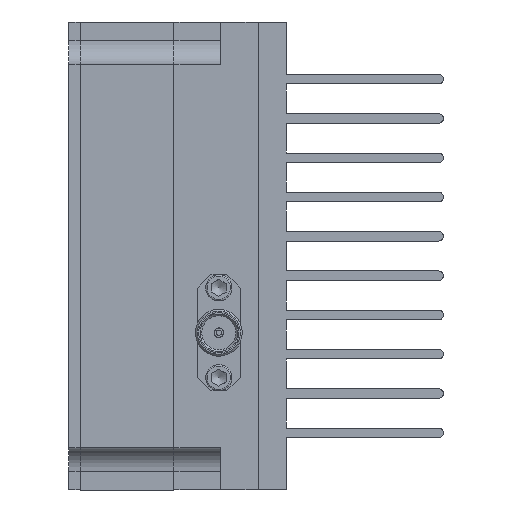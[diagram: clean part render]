
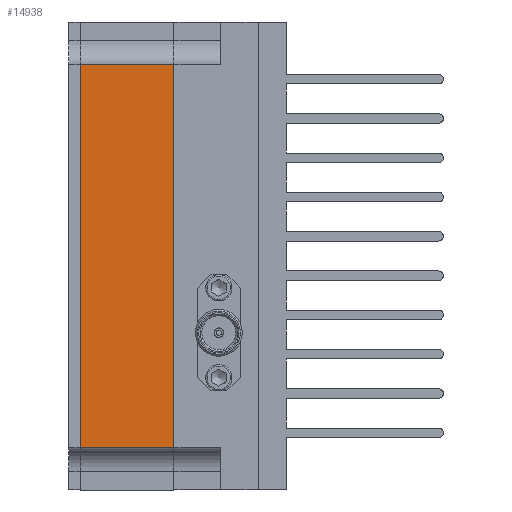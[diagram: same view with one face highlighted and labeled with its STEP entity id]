
A CAD part, left-side view. The second image highlights one B-rep face of the part: STEP entity #14938.
In plain terms, the highlighted planar face has unit normal (-1, 0, 0) as drawn and (0, 0, 1) by its records, which use the part's own axes.
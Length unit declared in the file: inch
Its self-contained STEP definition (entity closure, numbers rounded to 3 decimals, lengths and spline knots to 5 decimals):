
#10150=CARTESIAN_POINT('',(-1.025,0.0,1.65));
#10151=VERTEX_POINT('',#10150);
#10268=CARTESIAN_POINT('',(1.025,0.0,1.65));
#10269=VERTEX_POINT('',#10268);
#10276=CARTESIAN_POINT('',(-1.025,0.0,1.65));
#10277=DIRECTION('',(1.0,0.0,0.0));
#10278=VECTOR('',#10277,2.05);
#10279=LINE('',#10276,#10278);
#10280=EDGE_CURVE('',#10151,#10269,#10279,.T.);
#14233=CARTESIAN_POINT('',(-1.025,0.5,1.65));
#14234=VERTEX_POINT('',#14233);
#14241=CARTESIAN_POINT('',(1.025,0.5,1.65));
#14242=VERTEX_POINT('',#14241);
#14243=CARTESIAN_POINT('',(-1.025,0.5,1.65));
#14244=DIRECTION('',(1.0,0.0,0.0));
#14245=VECTOR('',#14244,2.05);
#14246=LINE('',#14243,#14245);
#14247=EDGE_CURVE('',#14234,#14242,#14246,.T.);
#14708=CARTESIAN_POINT('',(-1.025,0.5,1.65));
#14709=DIRECTION('',(0.0,-1.0,0.0));
#14710=VECTOR('',#14709,0.5);
#14711=LINE('',#14708,#14710);
#14712=EDGE_CURVE('',#14234,#10151,#14711,.T.);
#14861=CARTESIAN_POINT('',(1.025,0.0,1.65));
#14862=DIRECTION('',(0.0,1.0,0.0));
#14863=VECTOR('',#14862,0.5);
#14864=LINE('',#14861,#14863);
#14865=EDGE_CURVE('',#10269,#14242,#14864,.T.);
#14927=CARTESIAN_POINT('',(-1.25,0.0,1.65));
#14928=DIRECTION('',(0.0,0.0,1.0));
#14929=DIRECTION('',(1.0,0.0,0.0));
#14930=AXIS2_PLACEMENT_3D('',#14927,#14928,#14929);
#14931=PLANE('',#14930);
#14932=ORIENTED_EDGE('',*,*,#14712,.T.);
#14933=ORIENTED_EDGE('',*,*,#10280,.T.);
#14934=ORIENTED_EDGE('',*,*,#14865,.T.);
#14935=ORIENTED_EDGE('',*,*,#14247,.F.);
#14936=EDGE_LOOP('',(#14932,#14933,#14934,#14935));
#14937=FACE_OUTER_BOUND('',#14936,.T.);
#14938=ADVANCED_FACE('',(#14937),#14931,.T.);
